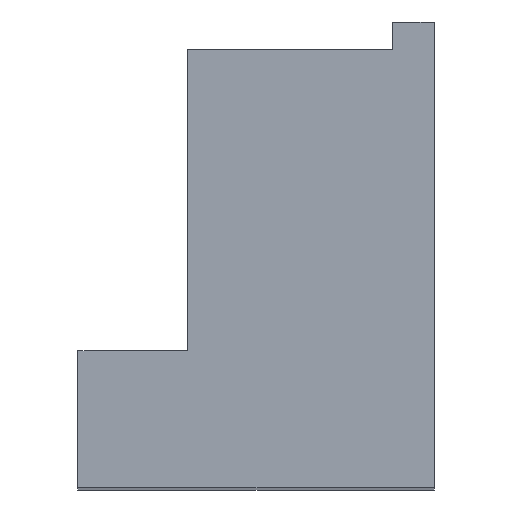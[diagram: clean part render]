
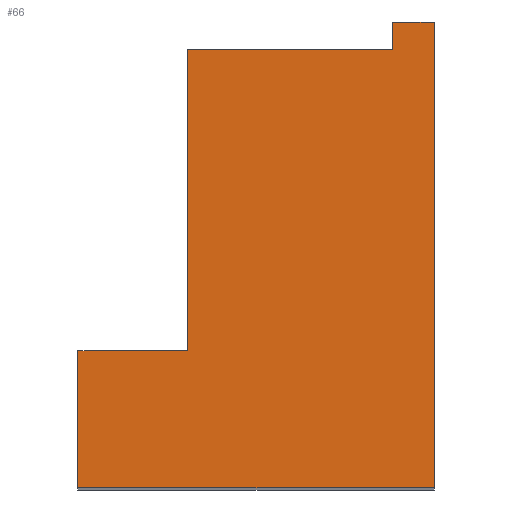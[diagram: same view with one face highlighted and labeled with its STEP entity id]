
A CAD part, top view. The second image highlights one B-rep face of the part: STEP entity #66.
In plain terms, the highlighted planar face has unit normal (0, 0, 1).
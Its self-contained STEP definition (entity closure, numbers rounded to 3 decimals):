
#66=ADVANCED_FACE('',(#170),#172,.T.);
#170=FACE_BOUND('',#171,.T.);
#171=EDGE_LOOP('',(#264,#265,#266,#267,#268,#269,#270,#271));
#172=PLANE('',#173);
#173=AXIS2_PLACEMENT_3D('',#174,#175,#176);
#174=CARTESIAN_POINT('',(0.,0.,50.));
#175=DIRECTION('',(0.,0.,1.));
#176=DIRECTION('',(-1.,0.,0.));
#264=ORIENTED_EDGE('',*,*,#317,.T.);
#265=ORIENTED_EDGE('',*,*,#319,.F.);
#266=ORIENTED_EDGE('',*,*,#320,.F.);
#267=ORIENTED_EDGE('',*,*,#321,.T.);
#268=ORIENTED_EDGE('',*,*,#322,.T.);
#269=ORIENTED_EDGE('',*,*,#323,.T.);
#270=ORIENTED_EDGE('',*,*,#324,.T.);
#271=ORIENTED_EDGE('',*,*,#325,.T.);
#317=EDGE_CURVE('',#354,#352,#355,.T.);
#319=EDGE_CURVE('',#357,#352,#358,.T.);
#320=EDGE_CURVE('',#359,#357,#360,.T.);
#321=EDGE_CURVE('',#359,#361,#362,.T.);
#322=EDGE_CURVE('',#361,#363,#364,.T.);
#323=EDGE_CURVE('',#363,#365,#366,.T.);
#324=EDGE_CURVE('',#365,#367,#368,.T.);
#325=EDGE_CURVE('',#367,#354,#369,.T.);
#352=VERTEX_POINT('',#416);
#354=VERTEX_POINT('',#420);
#355=LINE('',#421,#422);
#357=VERTEX_POINT('',#427);
#358=LINE('',#428,#429);
#359=VERTEX_POINT('',#431);
#360=LINE('',#432,#433);
#361=VERTEX_POINT('',#435);
#362=LINE('',#436,#437);
#363=VERTEX_POINT('',#439);
#364=LINE('',#440,#441);
#365=VERTEX_POINT('',#443);
#366=LINE('',#444,#445);
#367=VERTEX_POINT('',#447);
#368=LINE('',#448,#449);
#369=LINE('',#451,#452);
#416=CARTESIAN_POINT('',(0.,1.,50.));
#420=CARTESIAN_POINT('',(0.,-16.,50.));
#421=CARTESIAN_POINT('',(0.,-16.,50.));
#422=VECTOR('',#423,1.);
#423=DIRECTION('',(0.,1.,0.));
#427=CARTESIAN_POINT('',(-1.5,1.,50.));
#428=CARTESIAN_POINT('',(-1.5,1.,50.));
#429=VECTOR('',#430,1.);
#430=DIRECTION('',(1.,0.,0.));
#431=CARTESIAN_POINT('',(-1.5,0.,50.));
#432=CARTESIAN_POINT('',(-1.5,0.,50.));
#433=VECTOR('',#434,1.);
#434=DIRECTION('',(0.,1.,0.));
#435=CARTESIAN_POINT('',(-9.,0.,50.));
#436=CARTESIAN_POINT('',(-1.5,0.,50.));
#437=VECTOR('',#438,1.);
#438=DIRECTION('',(-1.,0.,0.));
#439=CARTESIAN_POINT('',(-9.,-11.,50.));
#440=CARTESIAN_POINT('',(-9.,0.,50.));
#441=VECTOR('',#442,1.);
#442=DIRECTION('',(0.,-1.,0.));
#443=CARTESIAN_POINT('',(-13.,-11.,50.));
#444=CARTESIAN_POINT('',(-9.,-11.,50.));
#445=VECTOR('',#446,1.);
#446=DIRECTION('',(-1.,0.,0.));
#447=CARTESIAN_POINT('',(-13.,-16.,50.));
#448=CARTESIAN_POINT('',(-13.,-11.,50.));
#449=VECTOR('',#450,1.);
#450=DIRECTION('',(0.,-1.,0.));
#451=CARTESIAN_POINT('',(-13.,-16.,50.));
#452=VECTOR('',#453,1.);
#453=DIRECTION('',(1.,0.,0.));
